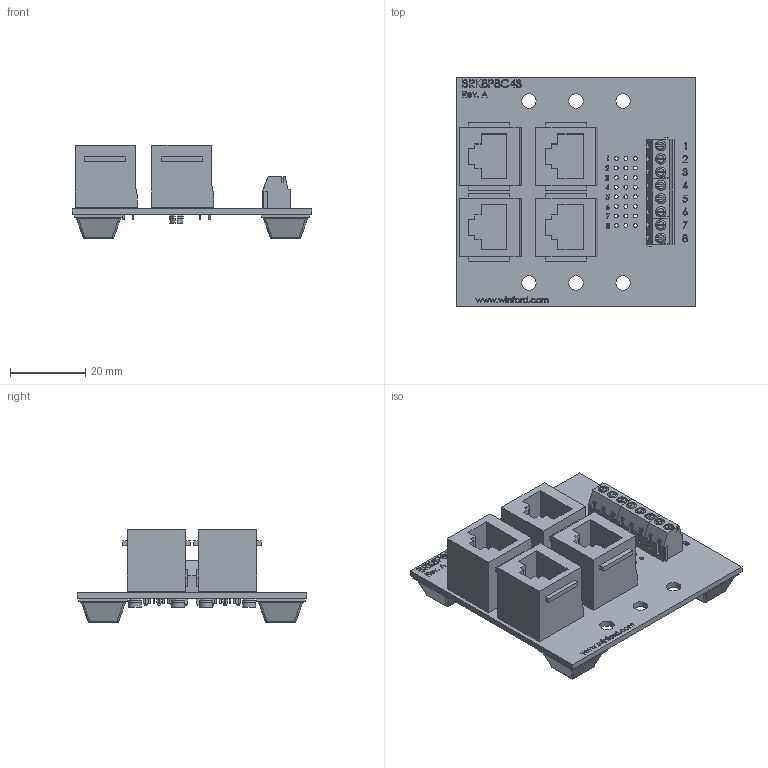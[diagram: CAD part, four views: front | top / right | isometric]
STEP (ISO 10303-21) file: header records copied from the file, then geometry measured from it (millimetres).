
FILE_DESCRIPTION (( 'STEP AP214' ), '1' );
FILE_NAME ('brk8p8c4b-s-ft_rev_a.step', '2017-12-17T03:30:48', ( '' ), ( '' ), 'SwSTEP 2.0', 'SolidWorks 2017', '' );
FILE_SCHEMA (( 'AUTOMOTIVE_DESIGN' ));
Length unit declared in the file: inch
Products named in the file (6): BRK8P8C4B Board; Screw Terminal 2; Screw Terminal 3; RJ45 Jack Straight; Square Rubber Feet; brk8p8c4b-s-ft_rev_a
Assembly tree (12 placements, depth 2):
  brk8p8c4b-s-ft_rev_a
    BRK8P8C4B Board
    RJ45 Jack Straight  x4
    Screw Terminal 2
    Screw Terminal 3  x2
    Square Rubber Feet  x4
Bounding box: 63.5 x 60.96 x 24.7 mm (x, y, z)
Volume: 19291.2 mm3; surface area: 22141.7 mm2
Topology: 9 solids, 20 shells, 1827 faces, 4740 edges, 3107 vertices
Faces by surface type: plane 1143, bspline 320, cylinder 300, cone 40, sphere 16, torus 8
Full cylindrical faces by diameter (mm): 0.45 x32, 0.76 x28, 1.016 x24, 1.092 x8, 1.603 x8, 2 x16, 2.68 x8, 2.75 x8, 3.81 x6
Entity records: 65701 total; most frequent: CARTESIAN_POINT 26320, ORIENTED_EDGE 6325, DIRECTION 4653, EDGE_CURVE 3170, VERTEX_POINT 2171, LINE 2129, VECTOR 2129, EDGE_LOOP 1625
